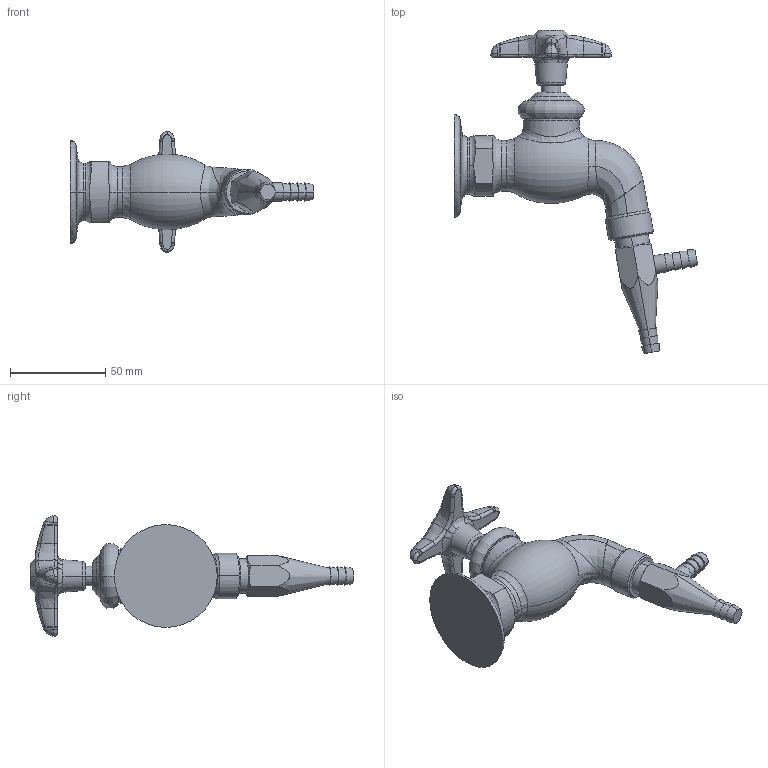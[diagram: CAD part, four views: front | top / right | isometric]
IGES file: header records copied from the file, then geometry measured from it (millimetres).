
Start section:  PTC IGES file: LWV3-B31.igs
Global section: file name: LWV3-B31.igs; native system: Creo Parametric by PTC Inc.; preprocessor: 2014500; author: usch_engrender; organization: Unknown; date: 20150910.121521; units: inch
Bounding box: 127.69 x 169.61 x 63.42 mm (x, y, z)
Volume: 132183.5 mm3; surface area: 28087.7 mm2
Topology: 1 solids, 6 shells, 377 faces, 892 edges, 537 vertices
Faces by surface type: bspline 247, revolution 130
